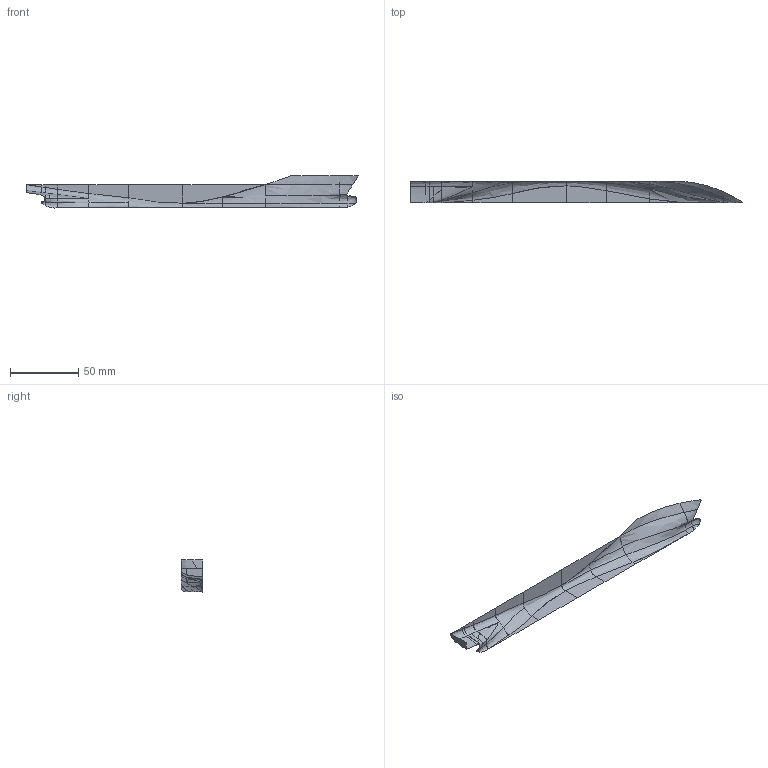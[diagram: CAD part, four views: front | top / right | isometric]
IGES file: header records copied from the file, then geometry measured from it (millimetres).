
Global section: file name: N:\cadex_tests\kcs_g2010.igs; native system: Rhinoceros ( Mar  9 2011 ); preprocessor: Trout Lake IGES 012 Mar  9 2011; date: 111026.123211; units: millimetre
Bounding box: 243.84 x 16.1 x 23.51 mm (x, y, z)
Surface area: 7009.3 mm2 (no closed solid volume)
Topology: 0 solids, 0 shells, 55 faces, 220 edges, 211 vertices
Faces by surface type: bspline 55
